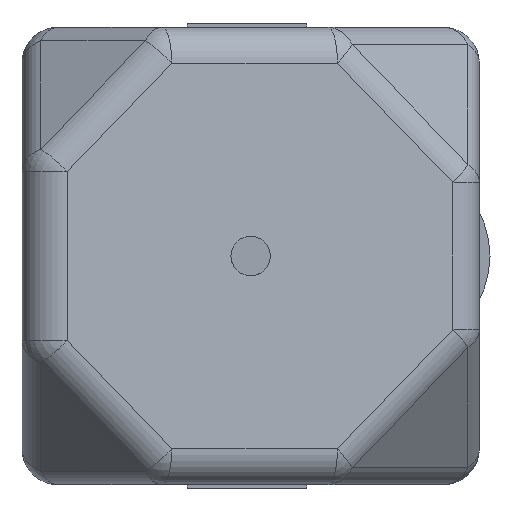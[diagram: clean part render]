
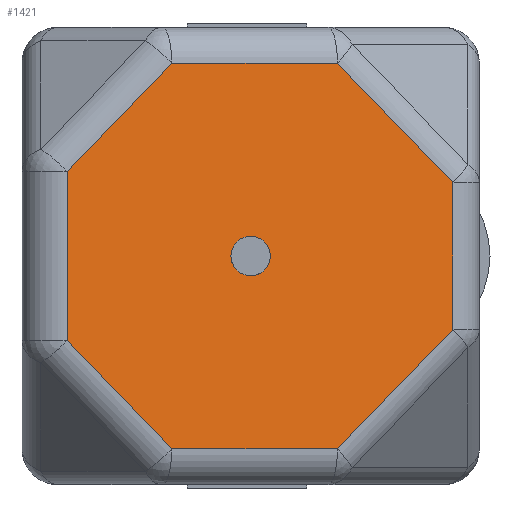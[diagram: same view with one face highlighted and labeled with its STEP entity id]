
A CAD part, front view. The second image highlights one B-rep face of the part: STEP entity #1421.
In plain terms, the highlighted planar face has unit normal (0.264, -0.965, 0).
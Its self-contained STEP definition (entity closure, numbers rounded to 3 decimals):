
#40 = VECTOR ( 'NONE', #3651, 1000. ) ;
#42 = EDGE_CURVE ( 'NONE', #1908, #1914, #2853, .T. ) ;
#215 = CARTESIAN_POINT ( 'NONE',  ( 5.5, -58.496, 0. ) ) ;
#276 = LINE ( 'NONE', #5105, #2760 ) ;
#358 = DIRECTION ( 'NONE',  ( 0.682, 0.187, -0.707 ) ) ;
#372 = CARTESIAN_POINT ( 'NONE',  ( -5.5, -61.504, 0. ) ) ;
#669 = VECTOR ( 'NONE', #3951, 1000. ) ;
#701 = CARTESIAN_POINT ( 'NONE',  ( -5.5, -61.504, 0. ) ) ;
#708 = CARTESIAN_POINT ( 'NONE',  ( -59.931, -76.387, 14.781 ) ) ;
#925 = CARTESIAN_POINT ( 'NONE',  ( 56.638, -44.513, 20.456 ) ) ;
#952 = ORIENTED_EDGE ( 'NONE', *, *, #5263, .T. ) ;
#1046 = VECTOR ( 'NONE', #358, 1000. ) ;
#1094 =( BOUNDED_CURVE ( )  B_SPLINE_CURVE ( 3, ( #4985, #4083, #3747, #215, #4567, #1931, #701 ),
 .UNSPECIFIED., .T., .T. ) 
 B_SPLINE_CURVE_WITH_KNOTS ( ( 4, 3, 4 ),
 ( 0., 3.142, 6.283 ),
 .UNSPECIFIED. ) 
 CURVE ( )  GEOMETRIC_REPRESENTATION_ITEM ( )  RATIONAL_B_SPLINE_CURVE ( ( 1., 0.333, 0.333, 1., 0.333, 0.333, 1. ) ) 
 REPRESENTATION_ITEM ( '' )  );
#1100 = LINE ( 'NONE', #2000, #40 ) ;
#1190 = VERTEX_POINT ( 'NONE', #4744 ) ;
#1216 = EDGE_CURVE ( 'NONE', #1190, #1908, #5246, .T. ) ;
#1230 = CARTESIAN_POINT ( 'NONE',  ( 24.281, -53.361, -54. ) ) ;
#1335 = LINE ( 'NONE', #1382, #4307 ) ;
#1347 = CARTESIAN_POINT ( 'NONE',  ( -51.362, -74.044, -64. ) ) ;
#1382 = CARTESIAN_POINT ( 'NONE',  ( 64., -42.5, -54. ) ) ;
#1421 = ADVANCED_FACE ( 'NONE', ( #3185, #4901 ), #2759, .F. ) ;
#1448 = LINE ( 'NONE', #3177, #2130 ) ;
#1741 = ORIENTED_EDGE ( 'NONE', *, *, #1216, .T. ) ;
#1776 = VERTEX_POINT ( 'NONE', #4620 ) ;
#1793 = CARTESIAN_POINT ( 'NONE',  ( -20.593, -65.631, 54. ) ) ;
#1871 = CARTESIAN_POINT ( 'NONE',  ( -22.1, -66.043, -54. ) ) ;
#1908 = VERTEX_POINT ( 'NONE', #2091 ) ;
#1914 = VERTEX_POINT ( 'NONE', #2121 ) ;
#1931 = CARTESIAN_POINT ( 'NONE',  ( -5.5, -61.504, 11. ) ) ;
#1989 = DIRECTION ( 'NONE',  ( -0.682, -0.187, 0.707 ) ) ;
#2000 = CARTESIAN_POINT ( 'NONE',  ( 56.638, -44.513, -64. ) ) ;
#2091 = CARTESIAN_POINT ( 'NONE',  ( -22.1, -66.043, 54. ) ) ;
#2108 = EDGE_CURVE ( 'NONE', #2564, #3143, #1100, .T. ) ;
#2121 = CARTESIAN_POINT ( 'NONE',  ( -51.362, -74.044, 23.664 ) ) ;
#2130 = VECTOR ( 'NONE', #3992, 1000. ) ;
#2216 = ORIENTED_EDGE ( 'NONE', *, *, #3772, .F. ) ;
#2443 = ORIENTED_EDGE ( 'NONE', *, *, #2108, .T. ) ;
#2483 = VERTEX_POINT ( 'NONE', #372 ) ;
#2514 = ORIENTED_EDGE ( 'NONE', *, *, #4154, .T. ) ;
#2518 = ORIENTED_EDGE ( 'NONE', *, *, #4977, .T. ) ;
#2564 = VERTEX_POINT ( 'NONE', #3210 ) ;
#2587 = DIRECTION ( 'NONE',  ( 0., 0., -1. ) ) ;
#2741 = AXIS2_PLACEMENT_3D ( 'NONE', #4489, #3693, #5016 ) ;
#2759 = PLANE ( 'NONE',  #2741 ) ;
#2760 = VECTOR ( 'NONE', #1989, 1000. ) ;
#2793 = ORIENTED_EDGE ( 'NONE', *, *, #42, .T. ) ;
#2853 = LINE ( 'NONE', #708, #3903 ) ;
#2855 = VECTOR ( 'NONE', #2587, 1000. ) ;
#3049 = LINE ( 'NONE', #1347, #2855 ) ;
#3143 = VERTEX_POINT ( 'NONE', #925 ) ;
#3177 = CARTESIAN_POINT ( 'NONE',  ( 39.318, -49.249, -38.412 ) ) ;
#3185 = FACE_OUTER_BOUND ( 'NONE', #3746, .T. ) ;
#3210 = CARTESIAN_POINT ( 'NONE',  ( 56.638, -44.513, -20.456 ) ) ;
#3271 = CARTESIAN_POINT ( 'NONE',  ( -16.524, -64.518, -59.781 ) ) ;
#3651 = DIRECTION ( 'NONE',  ( 0., 0., 1. ) ) ;
#3693 = DIRECTION ( 'NONE',  ( -0.264, 0.965, 0. ) ) ;
#3746 = EDGE_LOOP ( 'NONE', ( #952, #2514, #4246, #2443, #4819, #1741, #2793, #2518 ) ) ;
#3747 = CARTESIAN_POINT ( 'NONE',  ( 5.5, -58.496, -11. ) ) ;
#3772 = EDGE_CURVE ( 'NONE', #2483, #2483, #1094, .T. ) ;
#3903 = VECTOR ( 'NONE', #5486, 1000. ) ;
#3951 = DIRECTION ( 'NONE',  ( -0.965, -0.264, 0. ) ) ;
#3992 = DIRECTION ( 'NONE',  ( 0.682, 0.187, 0.707 ) ) ;
#4083 = CARTESIAN_POINT ( 'NONE',  ( -5.5, -61.504, -11. ) ) ;
#4154 = EDGE_CURVE ( 'NONE', #5086, #5204, #1335, .T. ) ;
#4225 = LINE ( 'NONE', #3271, #1046 ) ;
#4246 = ORIENTED_EDGE ( 'NONE', *, *, #5478, .T. ) ;
#4307 = VECTOR ( 'NONE', #5524, 1000. ) ;
#4489 = CARTESIAN_POINT ( 'NONE',  ( 64., -42.5, -64. ) ) ;
#4567 = CARTESIAN_POINT ( 'NONE',  ( 5.5, -58.496, 11. ) ) ;
#4620 = CARTESIAN_POINT ( 'NONE',  ( -51.362, -74.044, -23.664 ) ) ;
#4744 = CARTESIAN_POINT ( 'NONE',  ( 24.281, -53.361, 54. ) ) ;
#4819 = ORIENTED_EDGE ( 'NONE', *, *, #4876, .T. ) ;
#4876 = EDGE_CURVE ( 'NONE', #3143, #1190, #276, .T. ) ;
#4901 = FACE_BOUND ( 'NONE', #5491, .T. ) ;
#4977 = EDGE_CURVE ( 'NONE', #1914, #1776, #3049, .T. ) ;
#4985 = CARTESIAN_POINT ( 'NONE',  ( -5.5, -61.504, 0. ) ) ;
#5016 = DIRECTION ( 'NONE',  ( -0.965, -0.264, 0. ) ) ;
#5086 = VERTEX_POINT ( 'NONE', #1871 ) ;
#5105 = CARTESIAN_POINT ( 'NONE',  ( 17.614, -55.184, 60.912 ) ) ;
#5204 = VERTEX_POINT ( 'NONE', #1230 ) ;
#5246 = LINE ( 'NONE', #1793, #669 ) ;
#5263 = EDGE_CURVE ( 'NONE', #1776, #5086, #4225, .T. ) ;
#5478 = EDGE_CURVE ( 'NONE', #5204, #2564, #1448, .T. ) ;
#5486 = DIRECTION ( 'NONE',  ( -0.682, -0.187, -0.707 ) ) ;
#5491 = EDGE_LOOP ( 'NONE', ( #2216 ) ) ;
#5524 = DIRECTION ( 'NONE',  ( 0.965, 0.264, 0. ) ) ;
